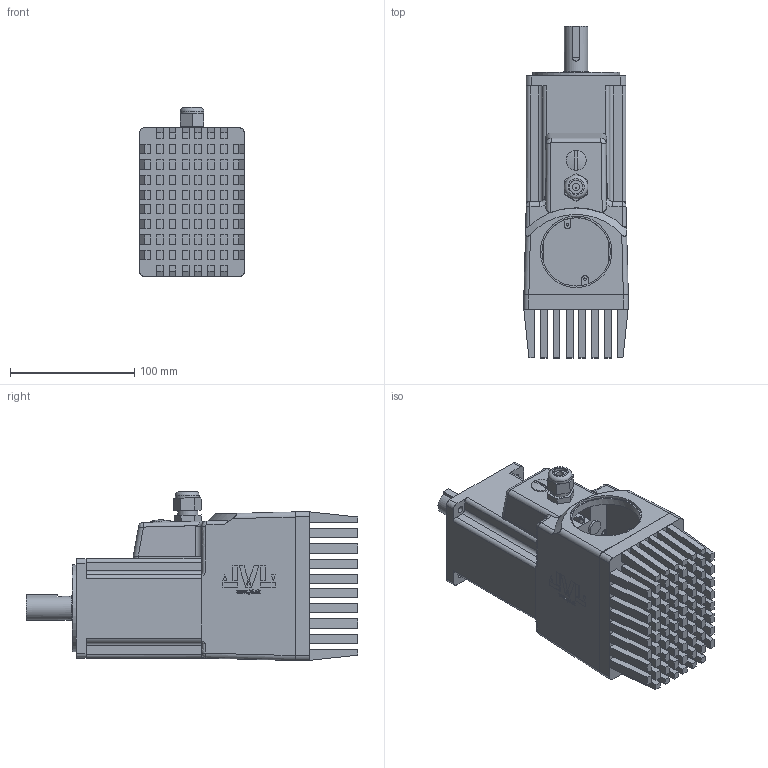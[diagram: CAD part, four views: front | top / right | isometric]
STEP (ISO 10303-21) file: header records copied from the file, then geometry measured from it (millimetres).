
FILE_DESCRIPTION(('FreeCAD Model'),'2;1');
FILE_NAME('C:/Users/ck/Documents/MAC1000-D2-xxxx.step', '2021-03-12T12:59:19',('Author'),(''), 'Open CASCADE STEP processor 7.3','FreeCAD','Unknown');
FILE_SCHEMA(('AUTOMOTIVE_DESIGN { 1 0 10303 214 1 1 1 1 }'));
Length unit declared in the file: millimetre
Products named in the file (9): Assem1; MM3533; Mac1200-D3; Mac1200-D003; Mac1200-D004
Assembly tree (4 placements, depth 2):
  Assem1
    MM3533
    Mac1200-D3
    Mac1200-D003
    Mac1200-D004
  Mac1200-D3
  MM3533
  Mac1200-D003
  Mac1200-D004
Bounding box: 84.08 x 266.7 x 135.83 mm (x, y, z)
Volume: 1165293.3 mm3; surface area: 327569.1 mm2
Topology: 8 solids, 9 shells, 1379 faces, 3426 edges, 2269 vertices
Faces by surface type: plane 1203, cylinder 110, extrusion 40, bspline 14, cone 9, sphere 2, torus 1
Full cylindrical faces by diameter (mm): 1 x2, 2 x2, 3.4 x4, 5.4 x4, 6 x1, 8 x4, 10.5 x2, 12 x1, 16 x2, 19 x2, 20 x1, 55 x1, 57.5 x1, 63 x1, 69 x1, 70 x1
Entity records: 149934 total; most frequent: CARTESIAN_POINT 36776, DIRECTION 18062, VECTOR 12891, LINE 12810, ORIENTED_EDGE 9840, PCURVE 9840, DEFINITIONAL_REPRESENTATION 9840, EDGE_CURVE 4920
